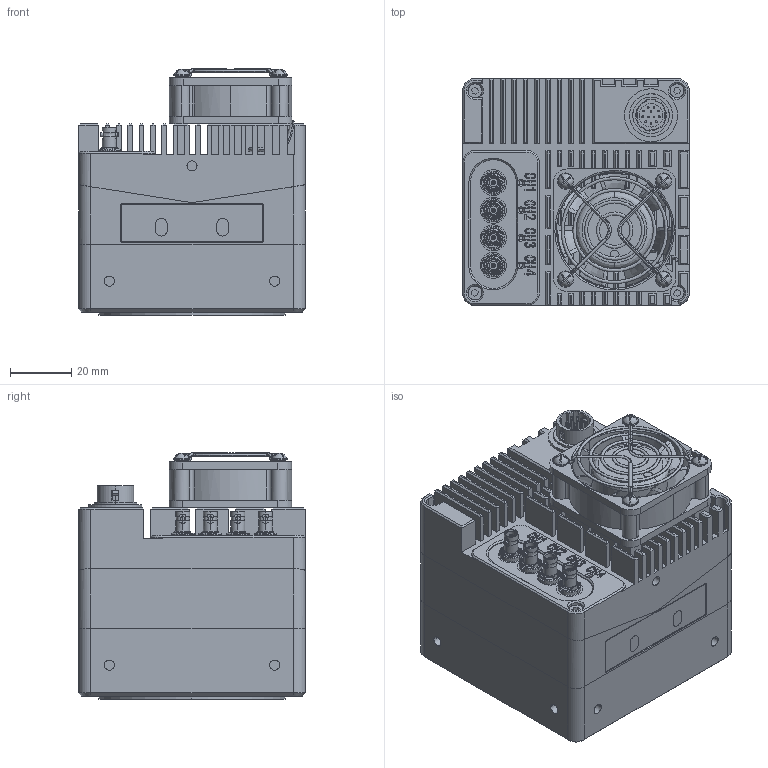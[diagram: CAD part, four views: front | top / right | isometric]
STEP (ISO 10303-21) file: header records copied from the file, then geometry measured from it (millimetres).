
FILE_DESCRIPTION (( 'STEP AP203' ), '1' );
FILE_NAME ('mars_hs_cxp_fan_74_74_11.48_m58_user_s1.0.2.STEP', '2023-09-14T05:31:29', ( '' ), ( '' ), 'SwSTEP 2.0', 'SolidWorks 2016', '' );
FILE_SCHEMA (( 'CONFIG_CONTROL_DESIGN' ));
Products named in the file (1): mars_hs_cxp_fan_74_74_11.48_m58_user_s1.0.2
Bounding box: 74 x 74 x 80.56 mm (x, y, z)
Volume: 242687.6 mm3; surface area: 111442.2 mm2
Topology: 68 solids, 85 shells, 3636 faces, 9198 edges, 5962 vertices
Faces by surface type: plane 2060, cylinder 987, bspline 437, cone 138, sphere 8, torus 6
Entity records: 176746 total; most frequent: CARTESIAN_POINT 92437, ORIENTED_EDGE 18388, DIRECTION 15839, EDGE_CURVE 9194, VERTEX_POINT 5958, VECTOR 5715, LINE 5715, AXIS2_PLACEMENT_3D 5062
